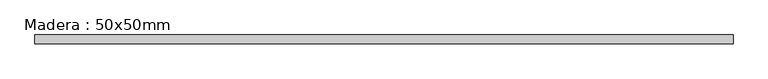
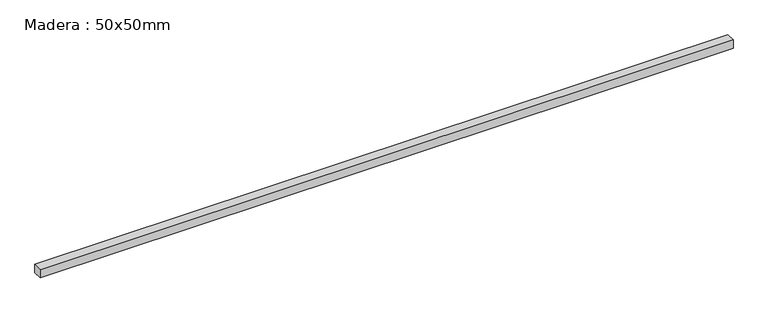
"""IFC4 building model written with IfcOpenShell, lengths in millimetres: beam geometry, Madera : 50x50mm."""

from ifc_helpers import new_model, si_unit, frame, origin, place, context, project, spatial, polyline, outline, extrude, source, transform, mapped, element, save


def madera_50x50mm_248aafd5(model_context):
    return source(origin(), model_context, "Body", "SweptSolid", [
        extrude(outline(polyline([(1953.5, 25.0), (1953.5, -25.0), (-1953.5, -25.0), (-1953.5, 25.0), (1953.5, 25.0)])), frame((0.0, 0.0, -25.0), z_axis=(0.0, 0.0, 1.0), x_axis=(1.0, 0.0, 0.0)), (0.0, 0.0, 1.0), 50.0),
    ])


if __name__ == "__main__":
    model = new_model("IFC4")
    model_context = context("Model", 3, world=origin())
    ifc_project = project(units=[si_unit("LENGTHUNIT", "METRE", prefix="MILLI")], contexts=[model_context])
    site = spatial("IfcSite", under=ifc_project)
    building = spatial("IfcBuilding", under=site)
    placement = place(None, origin())
    madera_50x50mm_shape = madera_50x50mm_248aafd5(model_context)
    element("IfcBeam", 1, ObjectType="Madera : 50x50mm", at=placement, inside=building, context=model_context, shape_type="MappedRepresentation", body=[
        mapped(madera_50x50mm_shape, transform((0.0, 0.0, 0.0), x_axis=(1.0, 0.0, 0.0), y_axis=(0.0, 1.0, 0.0), z_axis=(0.0, 0.0, 1.0))),
    ])
    save(model, "model.ifc")
